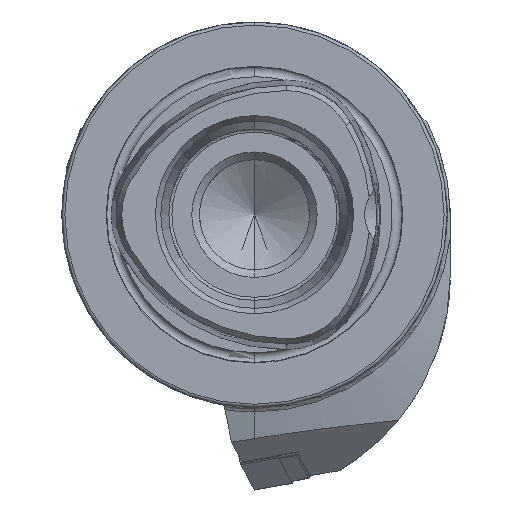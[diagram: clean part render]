
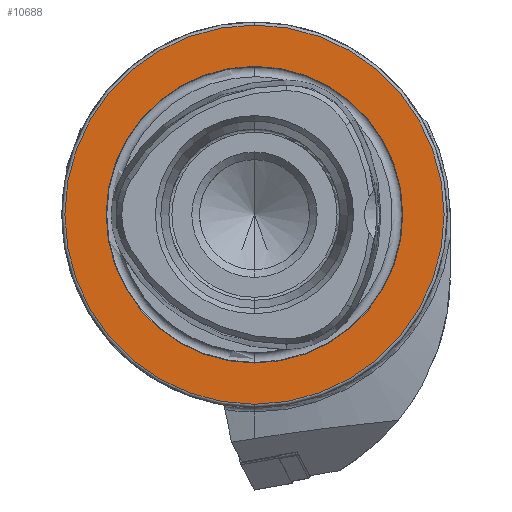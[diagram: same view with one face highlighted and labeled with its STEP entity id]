
A CAD part, left-side view. The second image highlights one B-rep face of the part: STEP entity #10688.
In plain terms, the highlighted planar face has unit normal (-1, 0, 0).
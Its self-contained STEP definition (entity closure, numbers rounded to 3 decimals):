
#815 = FACE_OUTER_BOUND ( 'NONE', #1410, .T. ) ;
#1389 = EDGE_CURVE ( 'NONE', #12222, #11898, #3150, .T. ) ;
#1410 = EDGE_LOOP ( 'NONE', ( #11200, #3800 ) ) ;
#1642 = ORIENTED_EDGE ( 'NONE', *, *, #1717, .F. ) ;
#1717 = EDGE_CURVE ( 'NONE', #11579, #9974, #8842, .T. ) ;
#1937 = DIRECTION ( 'NONE',  ( -1., 0., 0. ) ) ;
#1975 = DIRECTION ( 'NONE',  ( 0., 0., 1. ) ) ;
#2524 = CARTESIAN_POINT ( 'NONE',  ( 0., 0., -31. ) ) ;
#2738 = AXIS2_PLACEMENT_3D ( 'NONE', #6444, #1937, #9875 ) ;
#2812 = CARTESIAN_POINT ( 'NONE',  ( 0., 0., 24.25 ) ) ;
#2895 = CARTESIAN_POINT ( 'NONE',  ( 0., 0., 0. ) ) ;
#2910 = CARTESIAN_POINT ( 'NONE',  ( 0., 0., 0. ) ) ;
#2959 = AXIS2_PLACEMENT_3D ( 'NONE', #8737, #13295, #6507 ) ;
#3150 = CIRCLE ( 'NONE', #2738, 31. ) ;
#3800 = ORIENTED_EDGE ( 'NONE', *, *, #5565, .T. ) ;
#3883 = DIRECTION ( 'NONE',  ( 0., 0., 1. ) ) ;
#4005 = AXIS2_PLACEMENT_3D ( 'NONE', #12571, #12762, #12714 ) ;
#4045 = DIRECTION ( 'NONE',  ( -1., 0., 0. ) ) ;
#4358 = FACE_BOUND ( 'NONE', #4891, .T. ) ;
#4891 = EDGE_LOOP ( 'NONE', ( #1642, #9146 ) ) ;
#5565 = EDGE_CURVE ( 'NONE', #11898, #12222, #6987, .T. ) ;
#5759 = AXIS2_PLACEMENT_3D ( 'NONE', #2910, #4045, #1975 ) ;
#6444 = CARTESIAN_POINT ( 'NONE',  ( 0., 0., 0. ) ) ;
#6507 = DIRECTION ( 'NONE',  ( 0., 0., -1. ) ) ;
#6987 = CIRCLE ( 'NONE', #4005, 31. ) ;
#7602 = CARTESIAN_POINT ( 'NONE',  ( 0., 0., -24.25 ) ) ;
#7875 = CIRCLE ( 'NONE', #8717, 24.25 ) ;
#8686 = PLANE ( 'NONE',  #2959 ) ;
#8717 = AXIS2_PLACEMENT_3D ( 'NONE', #2895, #13017, #3883 ) ;
#8737 = CARTESIAN_POINT ( 'NONE',  ( 0., 24.25, 0. ) ) ;
#8842 = CIRCLE ( 'NONE', #5759, 24.25 ) ;
#9146 = ORIENTED_EDGE ( 'NONE', *, *, #13777, .F. ) ;
#9875 = DIRECTION ( 'NONE',  ( 0., 0., 1. ) ) ;
#9974 = VERTEX_POINT ( 'NONE', #7602 ) ;
#10688 = ADVANCED_FACE ( 'NONE', ( #4358, #815 ), #8686, .F. ) ;
#11200 = ORIENTED_EDGE ( 'NONE', *, *, #1389, .T. ) ;
#11579 = VERTEX_POINT ( 'NONE', #2812 ) ;
#11898 = VERTEX_POINT ( 'NONE', #2524 ) ;
#12188 = CARTESIAN_POINT ( 'NONE',  ( 0., 0., 31. ) ) ;
#12222 = VERTEX_POINT ( 'NONE', #12188 ) ;
#12571 = CARTESIAN_POINT ( 'NONE',  ( 0., 0., 0. ) ) ;
#12714 = DIRECTION ( 'NONE',  ( 0., 0., 1. ) ) ;
#12762 = DIRECTION ( 'NONE',  ( -1., 0., 0. ) ) ;
#13017 = DIRECTION ( 'NONE',  ( -1., 0., 0. ) ) ;
#13295 = DIRECTION ( 'NONE',  ( 1., 0., 0. ) ) ;
#13777 = EDGE_CURVE ( 'NONE', #9974, #11579, #7875, .T. ) ;
